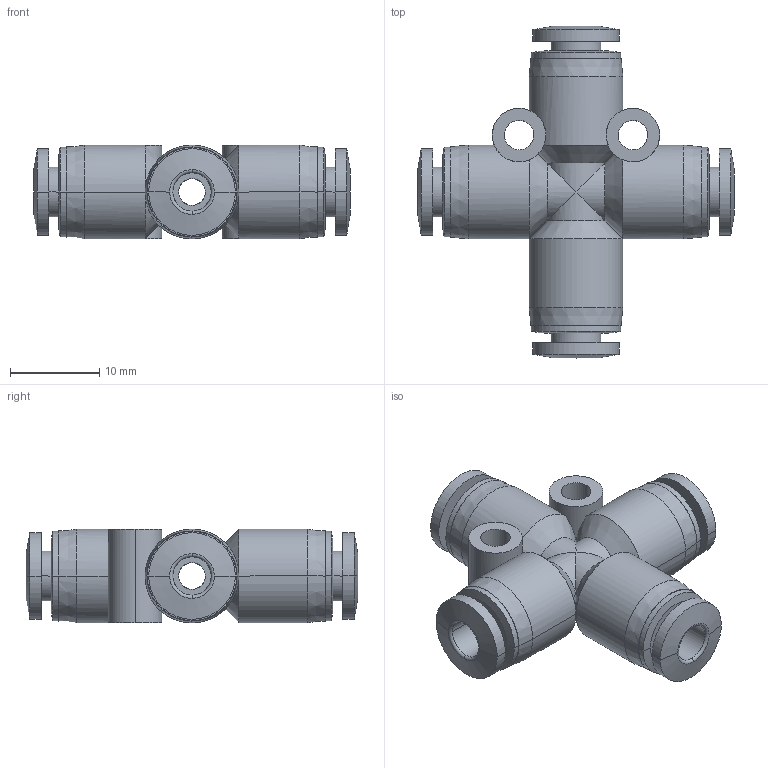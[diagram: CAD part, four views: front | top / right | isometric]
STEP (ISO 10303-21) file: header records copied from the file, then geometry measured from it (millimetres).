
FILE_DESCRIPTION (( 'STEP AP203' ), '1' );
FILE_NAME ('FX04-00.STEP', '2020-05-12T15:25:14', ( '' ), ( '' ), 'SwSTEP 2.0', 'SolidWorks 2019', '' );
FILE_SCHEMA (( 'CONFIG_CONTROL_DESIGN' ));
Length unit declared in the file: millimetre
Products named in the file (1): FX04-00
Bounding box: 35.5 x 37.2 x 10.5 mm (x, y, z)
Surface area: 3897.2 mm2 (no closed solid volume)
Topology: 0 solids, 1 shells, 124 faces, 294 edges, 174 vertices
Faces by surface type: cylinder 64, cone 32, plane 20, torus 8
Entity records: 6629 total; most frequent: CARTESIAN_POINT 4115, ORIENTED_EDGE 572, DIRECTION 348, EDGE_CURVE 294, B_SPLINE_CURVE_WITH_KNOTS 204, VERTEX_POINT 174, EDGE_LOOP 144, AXIS2_PLACEMENT_3D 133
